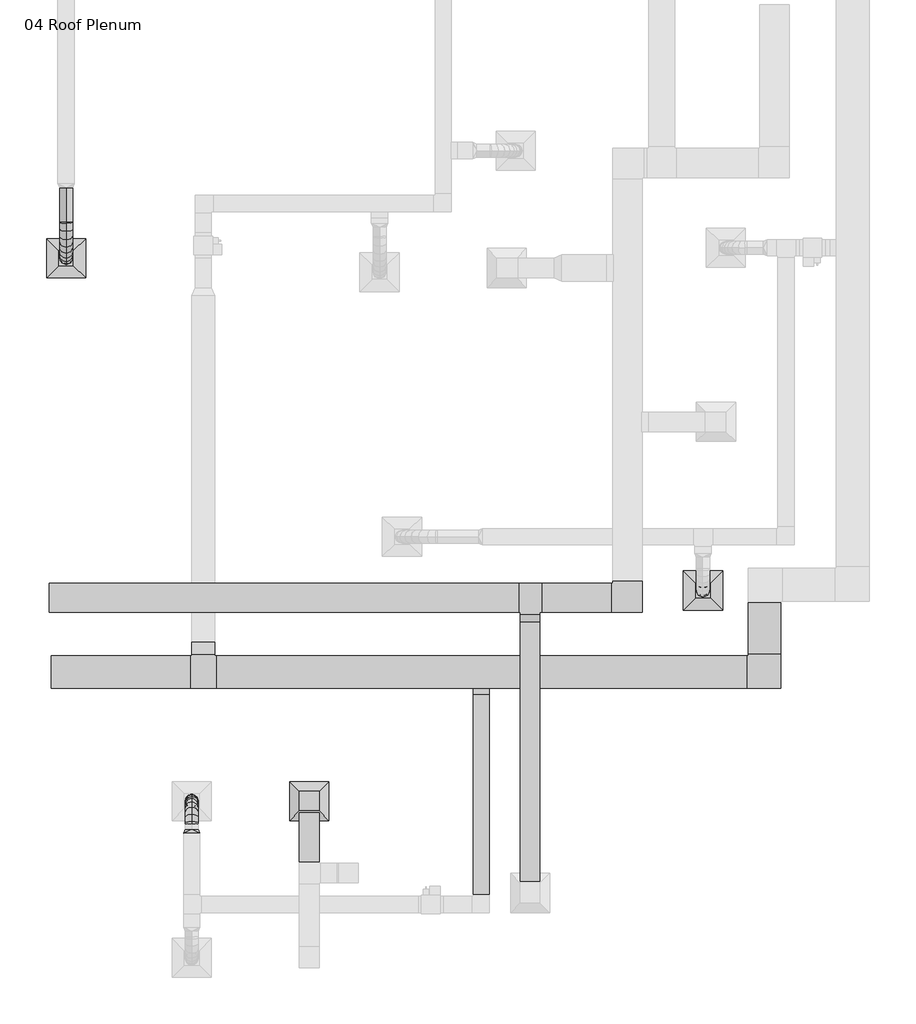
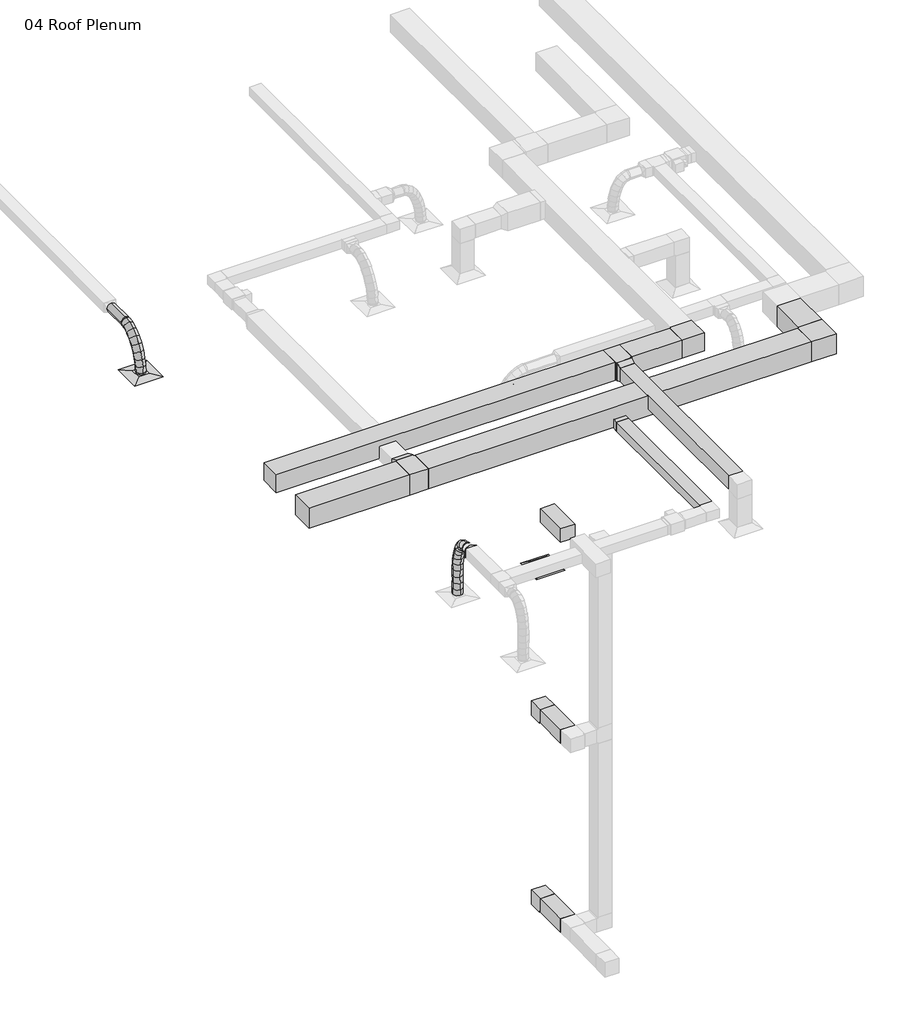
# One storey, part 2 of 9: 13 duct segments, 10 duct fittings, 3 air terminals.
"""IFC4 building model written with IfcOpenShell, lengths in millimetres."""

from ifc_helpers import new_model, si_unit, point, frame, frame_2d, origin, place, context, project, spatial, polyline, circle_curve, ellipse_curve, trimmed, segment, composite_curve, outline, extrude, transform, mapped, element, save
from ifc_brep_helpers import plane_surface, cylinder_surface, advanced_brep
from components import exhaust_diffuser_hosted_workplane_based_exhaust_diffuser_7695a80a, supply_diffuser_rectangular_face_round_neck_d30_6390248a, rectangular_elbow_mitered_standard_946096ac, rectangular_elbow_mitered_standard_3a774ab6, rectangular_elbow_mitered_standard_4ff1c4e8, rectangular_takeoff_standard_ae128e4c, rectangular_tee_standard_dc794bcd, rectangular_tee_standard_d8c1cff5, rectangular_transition_angle_45_degree_1844116c, rectangular_transition_angle_45_degree_58881a6c, rectangular_to_round_transition_angle_45_degree_e9430680

model = new_model("IFC4")

# Units and contexts
model_context = context("Model", 3, world=origin())
ifc_project = project(units=[si_unit("LENGTHUNIT", "METRE", prefix="MILLI")], contexts=[model_context])

# Site, building, storey
site = spatial("IfcSite", under=ifc_project)
building = spatial("IfcBuilding", under=site)
storey = spatial("IfcBuildingStorey", under=building, Name="04 Roof Plenum", Elevation=12192.0)

# Air terminals
placement = place(None, origin())
exhaust_diffuser_hosted_workplane_based_exhaust_diffuser_shape = exhaust_diffuser_hosted_workplane_based_exhaust_diffuser_7695a80a(model_context)
element("IfcAirTerminal", 1, ObjectType="Exhaust Diffuser - Hosted : Workplane-based Exhaust Diffuser", at=placement, inside=storey, context=model_context, shape_type="MappedRepresentation", body=[
    mapped(exhaust_diffuser_hosted_workplane_based_exhaust_diffuser_shape, transform((-12923.6292617, -3364.9078325, 11582.4), x_axis=(1.0, 0.0, 0.0), y_axis=(0.0, -1.0, 0.0), z_axis=(0.0, 0.0, -1.0))),
])
supply_diffuser_rectangular_face_round_neck_d30_shape = supply_diffuser_rectangular_face_round_neck_d30_6390248a(model_context)
element("IfcAirTerminal", 2, ObjectType="Supply Diffuser - Rectangular Face Round Neck : D30_SupplyDiffuser_24x24 8 Neck", at=placement, inside=storey, context=model_context, shape_type="MappedRepresentation", body=[
    mapped(supply_diffuser_rectangular_face_round_neck_d30_shape, transform((-6797.3043703, -88.3078325, 12192.0), x_axis=(1.0, 0.0, 0.0), y_axis=(0.0, 1.0, 0.0), z_axis=(0.0, 0.0, 1.0))),
])
element("IfcAirTerminal", 3, ObjectType="Supply Diffuser - Rectangular Face Round Neck : D30_SupplyDiffuser_24x24 8 Neck", at=placement, inside=storey, context=model_context, shape_type="MappedRepresentation", body=[
    mapped(supply_diffuser_rectangular_face_round_neck_d30_shape, transform((-16705.1723705, 5080.5921675, 12192.0), x_axis=(1.0, 0.0, 0.0), y_axis=(0.0, 1.0, 0.0), z_axis=(0.0, 0.0, 1.0))),
])

# Duct fittings
rectangular_elbow_mitered_standard_shape = rectangular_elbow_mitered_standard_946096ac(model_context)
element("IfcDuctFitting", 4, ObjectType="Rectangular Elbow - Mitered : Standard", at=placement, inside=storey, context=model_context, shape_type="MappedRepresentation", body=[
    mapped(rectangular_elbow_mitered_standard_shape, transform((-5838.9142705, -1355.9265825, 13030.2), x_axis=(1.0, 0.0, 0.0), y_axis=(0.0, 1.0, 0.0), z_axis=(0.0, 0.0, 1.0))),
])
rectangular_elbow_mitered_standard_2_shape = rectangular_elbow_mitered_standard_3a774ab6(model_context)
element("IfcDuctFitting", 5, ObjectType="Rectangular Elbow - Mitered : Standard", at=placement, inside=storey, context=model_context, shape_type="MappedRepresentation", body=[
    mapped(rectangular_elbow_mitered_standard_2_shape, transform((-7972.5142705, -201.3156743, 13112.75), x_axis=(1.0, 0.0, 0.0), y_axis=(0.0, 1.0, 0.0), z_axis=(0.0, 0.0, 1.0))),
])
rectangular_elbow_mitered_standard_3_shape = rectangular_elbow_mitered_standard_4ff1c4e8(model_context)
element("IfcDuctFitting", 6, ObjectType="Rectangular Elbow - Mitered : Standard", at=placement, inside=storey, context=model_context, shape_type="MappedRepresentation", body=[
    mapped(rectangular_elbow_mitered_standard_3_shape, transform((-12923.6292617, -3364.9078325, 4038.6), x_axis=(0.0, 1.0, 0.0), y_axis=(0.0, 0.0, -1.0), z_axis=(-1.0, 0.0, 0.0))),
])
element("IfcDuctFitting", 7, ObjectType="Rectangular Elbow - Mitered : Standard", at=placement, inside=storey, context=model_context, shape_type="MappedRepresentation", body=[
    mapped(rectangular_elbow_mitered_standard_3_shape, transform((-12923.6292617, -3364.9078325, 8343.9), x_axis=(0.0, 1.0, 0.0), y_axis=(0.0, 0.0, -1.0), z_axis=(-1.0, 0.0, 0.0))),
])
rectangular_takeoff_standard_shape = rectangular_takeoff_standard_ae128e4c(model_context)
element("IfcDuctFitting", 8, ObjectType="Rectangular Takeoff : Standard", at=placement, inside=storey, context=model_context, shape_type="MappedRepresentation", body=[
    mapped(rectangular_takeoff_standard_shape, transform((-10246.0481813, -1609.9265825, 12877.8), x_axis=(0.0, -1.0, 0.0), y_axis=(-1.0, 0.0, 0.0), z_axis=(0.0, 0.0, -1.0))),
])
rectangular_tee_standard_shape = rectangular_tee_standard_dc794bcd(model_context)
element("IfcDuctFitting", 9, ObjectType="Rectangular Tee : Standard", at=placement, inside=storey, context=model_context, shape_type="MappedRepresentation", body=[
    mapped(rectangular_tee_standard_shape, transform((-14571.5723705, -1355.9265825, 13030.2), x_axis=(-1.0, 0.0, 0.0), y_axis=(0.0, -1.0, 0.0), z_axis=(0.0, 0.0, 1.0))),
])
rectangular_tee_standard_2_shape = rectangular_tee_standard_d8c1cff5(model_context)
element("IfcDuctFitting", 10, ObjectType="Rectangular Tee : Standard", at=placement, inside=storey, context=model_context, shape_type="MappedRepresentation", body=[
    mapped(rectangular_tee_standard_2_shape, transform((-9486.0382699, -201.3156743, 13112.75), x_axis=(1.0, 0.0, 0.0), y_axis=(0.0, 1.0, 0.0), z_axis=(0.0, 0.0, 1.0))),
])
rectangular_transition_angle_45_degree_shape = rectangular_transition_angle_45_degree_1844116c(model_context)
element("IfcDuctFitting", 11, ObjectType="Rectangular Transition - Angle : 45 Degree", at=placement, inside=storey, context=model_context, shape_type="MappedRepresentation", body=[
    mapped(rectangular_transition_angle_45_degree_shape, transform((-14571.5723705, -1076.5265825, 13030.2), x_axis=(0.0, 1.0, 0.0), y_axis=(-1.0, 0.0, 0.0), z_axis=(0.0, 0.0, 1.0))),
])
rectangular_transition_angle_45_degree_2_shape = rectangular_transition_angle_45_degree_58881a6c(model_context)
element("IfcDuctFitting", 12, ObjectType="Rectangular Transition - Angle : 45 Degree", at=placement, inside=storey, context=model_context, shape_type="MappedRepresentation", body=[
    mapped(rectangular_transition_angle_45_degree_2_shape, transform((-9486.0382699, -455.3156743, 13112.75), x_axis=(0.0, -1.0, 0.0), y_axis=(1.0, 0.0, 0.0), z_axis=(0.0, 0.0, 1.0))),
])
rectangular_to_round_transition_angle_45_degree_shape = rectangular_to_round_transition_angle_45_degree_e9430680(model_context)
element("IfcDuctFitting", 13, ObjectType="Rectangular to Round Transition - Angle : 45 Degree", at=placement, inside=storey, context=model_context, shape_type="MappedRepresentation", body=[
    mapped(rectangular_to_round_transition_angle_45_degree_shape, transform((-14752.2538818, -3867.6465968, 12877.8), x_axis=(0.0, 1.0, 0.0), y_axis=(-1.0, 0.0, 0.0), z_axis=(0.0, 0.0, 1.0))),
])

# Duct segments
element("IfcDuctSegment", 14, ObjectType="Flex - Round", at=placement, inside=storey, context=model_context, shape_type="AdvancedBrep", body=[
    advanced_brep(
    [(-14853.8538818, -3715.2465968, 12877.8), (-14752.2538818, -3715.2465968, 12776.2), (-14650.6538818, -3715.2465968, 12877.8), (-14752.2538818, -3715.2465968, 12979.4), (-14853.8538818, -3696.9652792, 12877.8), (-14752.2538818, -3708.0796365, 12776.2), (-14650.6538818, -3696.9605547, 12877.8), (-14752.2538818, -3685.8461974, 12979.4), (-14854.0292597, -3364.9273538, 11636.3785359), (-14752.4488245, -3263.3153608, 11635.1383508), (-14650.8292636, -3364.8883112, 11636.3714641), (-14752.4096988, -3466.5003043, 11637.6116492), (-14853.8579662, -3610.1823133, 12858.5789033), (-14752.2566, -3650.3242331, 12763.4080635), (-14650.6579668, -3610.1655535, 12858.5762377), (-14752.259333, -3570.0236336, 12953.7470775), (-14853.8691655, -3527.7290367, 12804.5006621), (-14752.2636562, -3598.3741074, 12729.3357798), (-14650.6691677, -3527.7002017, 12804.4900768), (-14752.274677, -3457.055131, 12879.6549592), (-14853.8858988, -3465.2301987, 12720.9407746), (-14752.2755219, -3554.0556397, 12670.0827393), (-14650.6859028, -3465.1947015, 12720.9212819), (-14752.2962797, -3376.3692605, 12771.7793172), (-14853.9065854, -3420.0302397, 12613.2749471), (-14752.2925502, -3516.8490724, 12581.457087), (-14650.7065906, -3419.9922044, 12613.2494088), (-14752.3206257, -3323.1733717, 12645.067269), (-14853.9296441, -3389.4741211, 12486.88076), (-14752.3132146, -3489.4656771, 12468.1867453), (-14650.7296498, -3389.4353408, 12486.8521401), (-14752.3460792, -3289.4437848, 12505.5461547), (-14853.9534936, -3370.9062148, 12347.1361757), (-14752.3355612, -3472.0678765, 12337.2485355), (-14650.7534994, -3370.8673308, 12347.1067754), (-14752.3714318, -3269.7056691, 12356.9944156), (-14853.9765526, -3361.670551, 12199.4190351), (-14752.3577091, -3463.1971288, 12195.3679398), (-14650.7765583, -3361.6317359, 12199.3907367), (-14752.3954018, -3260.1051581, 12203.441832), (-14853.99724, -3359.1110214, 12049.106997), (-14752.3778906, -3460.7001997, 12048.7322024), (-14650.7972453, -3359.0722562, 12049.0816274), (-14752.4165947, -3257.4830779, 12049.456422), (-14854.0139745, -3360.5714626, 11901.5775235), (-14752.3944099, -3462.1418642, 11903.0994956), (-14650.8139792, -3360.532647, 11901.5572482), (-14752.4335438, -3258.9622454, 11900.0352761), (-14854.0251749, -3363.3956781, 11762.2077856), (-14752.4056007, -3464.9636573, 11763.8492986), (-14650.8251789, -3363.3566967, 11762.1956904), (-14752.4447532, -3261.7887175, 11760.5541775)],
    [
        (0, 1, circle_curve(frame((-14752.2538818, -3715.2465968, 12877.8), z_axis=(0.0, -1.0, 0.0), x_axis=(-1.0, 0.0, 0.0)), 101.6)),
        (1, 2, circle_curve(frame((-14752.2538818, -3715.2465968, 12877.8), z_axis=(0.0, -1.0, 0.0), x_axis=(-1.0, 0.0, 0.0)), 101.6)),
        (2, 3, circle_curve(frame((-14752.2538818, -3715.2465968, 12877.8), z_axis=(0.0, -1.0, 0.0), x_axis=(-1.0, 0.0, 0.0)), 101.6)),
        (3, 0, circle_curve(frame((-14752.2538818, -3715.2465968, 12877.8), z_axis=(0.0, -1.0, 0.0), x_axis=(-1.0, 0.0, 0.0)), 101.6)),
        (0, 4),
        (4, 5, ellipse_curve(frame((-14752.2538818, -3696.9629169, 12877.8), z_axis=(2.3112868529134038e-05, -0.9940672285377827, 0.10876738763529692), x_axis=(-0.00021123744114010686, -0.10876739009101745, -0.9940672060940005)), 102.206367, 101.6)),
        (5, 1),
        (5, 6, ellipse_curve(frame((-14752.2538818, -3696.9629169, 12877.8), z_axis=(2.3112868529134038e-05, -0.9940672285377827, 0.10876738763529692), x_axis=(-0.00021123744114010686, -0.10876739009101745, -0.9940672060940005)), 102.206367, 101.6)),
        (6, 2),
        (6, 7, ellipse_curve(frame((-14752.2538818, -3696.9629169, 12877.8), z_axis=(2.3112868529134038e-05, -0.9940672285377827, 0.10876738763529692), x_axis=(-0.00021123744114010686, -0.10876739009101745, -0.9940672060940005)), 102.206367, 101.6)),
        (7, 3),
        (7, 4, ellipse_curve(frame((-14752.2538818, -3696.9629169, 12877.8), z_axis=(2.3112868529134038e-05, -0.9940672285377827, 0.10876738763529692), x_axis=(-0.00021123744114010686, -0.10876739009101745, -0.9940672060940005)), 102.206367, 101.6)),
        (8, 9, circle_curve(frame((-14752.4292617, -3364.9078325, 11636.375), z_axis=(-3.2460732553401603e-05, -0.012171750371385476, -0.999925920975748), x_axis=(-0.9999999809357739, -0.00019213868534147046, 3.480197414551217e-05)), 101.6)),
        (9, 10, circle_curve(frame((-14752.4292617, -3364.9078325, 11636.375), z_axis=(-3.2460732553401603e-05, -0.012171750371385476, -0.999925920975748), x_axis=(-0.9999999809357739, -0.00019213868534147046, 3.480197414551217e-05)), 101.6)),
        (10, 11, circle_curve(frame((-14752.4292617, -3364.9078325, 11636.375), z_axis=(-3.2460732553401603e-05, -0.012171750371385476, -0.999925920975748), x_axis=(-0.9999999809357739, -0.00019213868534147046, 3.480197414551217e-05)), 101.6)),
        (11, 8, circle_curve(frame((-14752.4292617, -3364.9078325, 11636.375), z_axis=(-3.2460732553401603e-05, -0.012171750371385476, -0.999925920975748), x_axis=(-0.9999999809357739, -0.00019213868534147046, 3.480197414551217e-05)), 101.6)),
        (4, 12),
        (12, 13, ellipse_curve(frame((-14752.2579665, -3610.1739334, 12858.5775705), z_axis=(8.10925509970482e-05, -0.9213618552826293, 0.3887059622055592), x_axis=(-0.00018756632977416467, -0.38870597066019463, -0.9213618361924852)), 103.2922149, 101.6)),
        (13, 5),
        (13, 14, ellipse_curve(frame((-14752.2579665, -3610.1739334, 12858.5775705), z_axis=(8.10925509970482e-05, -0.9213618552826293, 0.3887059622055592), x_axis=(-0.00018756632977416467, -0.38870597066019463, -0.9213618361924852)), 103.2922149, 101.6)),
        (14, 6),
        (14, 15, ellipse_curve(frame((-14752.2579665, -3610.1739334, 12858.5775705), z_axis=(8.10925509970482e-05, -0.9213618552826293, 0.3887059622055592), x_axis=(-0.00018756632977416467, -0.38870597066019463, -0.9213618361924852)), 103.2922149, 101.6)),
        (15, 7),
        (15, 12, ellipse_curve(frame((-14752.2579665, -3610.1739334, 12858.5775705), z_axis=(8.10925509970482e-05, -0.9213618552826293, 0.3887059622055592), x_axis=(-0.00018756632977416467, -0.38870597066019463, -0.9213618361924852)), 103.2922149, 101.6)),
        (12, 16),
        (16, 17, ellipse_curve(frame((-14752.2691666, -3527.7146192, 12804.4953695), z_axis=(0.00013907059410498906, -0.7285818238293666, 0.6849587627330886), x_axis=(-0.00013507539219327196, -0.6849587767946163, -0.728581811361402)), 103.1587477, 101.6)),
        (17, 13),
        (17, 18, ellipse_curve(frame((-14752.2691666, -3527.7146192, 12804.4953695), z_axis=(0.00013907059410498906, -0.7285818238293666, 0.6849587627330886), x_axis=(-0.00013507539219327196, -0.6849587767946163, -0.728581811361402)), 103.1587477, 101.6)),
        (18, 14),
        (18, 19, ellipse_curve(frame((-14752.2691666, -3527.7146192, 12804.4953695), z_axis=(0.00013907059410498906, -0.7285818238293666, 0.6849587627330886), x_axis=(-0.00013507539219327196, -0.6849587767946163, -0.728581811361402)), 103.1587477, 101.6)),
        (19, 15),
        (19, 16, ellipse_curve(frame((-14752.2691666, -3527.7146192, 12804.4953695), z_axis=(0.00013907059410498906, -0.7285818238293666, 0.6849587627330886), x_axis=(-0.00013507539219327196, -0.6849587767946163, -0.728581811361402)), 103.1587477, 101.6)),
        (16, 20),
        (20, 21, ellipse_curve(frame((-14752.2859008, -3465.2124501, 12720.9310282), z_axis=(0.0001700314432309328, -0.49673348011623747, 0.8679031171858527), x_axis=(-6.88088405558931e-05, -0.8679031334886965, -0.4967334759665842)), 102.3653308, 101.6)),
        (21, 17),
        (21, 22, ellipse_curve(frame((-14752.2859008, -3465.2124501, 12720.9310282), z_axis=(0.0001700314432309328, -0.49673348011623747, 0.8679031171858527), x_axis=(-6.88088405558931e-05, -0.8679031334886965, -0.4967334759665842)), 102.3653308, 101.6)),
        (22, 18),
        (22, 23, ellipse_curve(frame((-14752.2859008, -3465.2124501, 12720.9310282), z_axis=(0.0001700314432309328, -0.49673348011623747, 0.8679031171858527), x_axis=(-6.88088405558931e-05, -0.8679031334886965, -0.4967334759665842)), 102.3653308, 101.6)),
        (23, 19),
        (23, 20, ellipse_curve(frame((-14752.2859008, -3465.2124501, 12720.9310282), z_axis=(0.0001700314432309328, -0.49673348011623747, 0.8679031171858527), x_axis=(-6.88088405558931e-05, -0.8679031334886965, -0.4967334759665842)), 102.3653308, 101.6)),
        (20, 24),
        (24, 25, ellipse_curve(frame((-14752.306588, -3420.011222, 12613.262178), z_axis=(0.00017781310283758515, -0.31203761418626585, 0.9500697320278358), x_axis=(-1.0482813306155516e-06, -0.9500697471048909, -0.31203761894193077)), 101.9270978, 101.6)),
        (25, 21),
        (25, 26, ellipse_curve(frame((-14752.306588, -3420.011222, 12613.262178), z_axis=(0.00017781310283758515, -0.31203761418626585, 0.9500697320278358), x_axis=(-1.0482813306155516e-06, -0.9500697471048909, -0.31203761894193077)), 101.9270978, 101.6)),
        (26, 22),
        (26, 27, ellipse_curve(frame((-14752.306588, -3420.011222, 12613.262178), z_axis=(0.00017781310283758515, -0.31203761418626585, 0.9500697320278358), x_axis=(-1.0482813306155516e-06, -0.9500697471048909, -0.31203761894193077)), 101.9270978, 101.6)),
        (27, 23),
        (27, 24, ellipse_curve(frame((-14752.306588, -3420.011222, 12613.262178), z_axis=(0.00017781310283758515, -0.31203761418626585, 0.9500697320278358), x_axis=(-1.0482813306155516e-06, -0.9500697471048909, -0.31203761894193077)), 101.9270978, 101.6)),
        (24, 28),
        (28, 29, ellipse_curve(frame((-14752.3296469, -3389.454731, 12486.86645), z_axis=(0.00017349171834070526, -0.18360151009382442, 0.9830007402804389), x_axis=(7.756186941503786e-05, -0.9830007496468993, -0.18360152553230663)), 101.7404589, 101.6)),
        (29, 25),
        (29, 30, ellipse_curve(frame((-14752.3296469, -3389.454731, 12486.86645), z_axis=(0.00017349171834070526, -0.18360151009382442, 0.9830007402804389), x_axis=(7.756186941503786e-05, -0.9830007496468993, -0.18360152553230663)), 101.7404589, 101.6)),
        (30, 26),
        (30, 31, ellipse_curve(frame((-14752.3296469, -3389.454731, 12486.86645), z_axis=(0.00017349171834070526, -0.18360151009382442, 0.9830007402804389), x_axis=(7.756186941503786e-05, -0.9830007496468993, -0.18360152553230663)), 101.7404589, 101.6)),
        (31, 27),
        (31, 28, ellipse_curve(frame((-14752.3296469, -3389.454731, 12486.86645), z_axis=(0.00017349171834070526, -0.18360151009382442, 0.9830007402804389), x_axis=(7.756186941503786e-05, -0.9830007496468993, -0.18360152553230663)), 101.7404589, 101.6)),
        (28, 32),
        (32, 33, ellipse_curve(frame((-14752.3534965, -3370.8867728, 12347.1214756), z_axis=(0.0001625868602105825, -0.09711565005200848, 0.9952730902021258), x_axis=(0.00019212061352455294, -0.9952730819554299, -0.09711568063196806)), 101.6616496, 101.6)),
        (33, 29),
        (33, 34, ellipse_curve(frame((-14752.3534965, -3370.8867728, 12347.1214756), z_axis=(0.0001625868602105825, -0.09711565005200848, 0.9952730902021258), x_axis=(0.00019212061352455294, -0.9952730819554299, -0.09711568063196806)), 101.6616496, 101.6)),
        (34, 30),
        (34, 35, ellipse_curve(frame((-14752.3534965, -3370.8867728, 12347.1214756), z_axis=(0.0001625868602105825, -0.09711565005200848, 0.9952730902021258), x_axis=(0.00019212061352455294, -0.9952730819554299, -0.09711568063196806)), 101.6616496, 101.6)),
        (35, 31),
        (35, 32, ellipse_curve(frame((-14752.3534965, -3370.8867728, 12347.1214756), z_axis=(0.0001625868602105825, -0.09711565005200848, 0.9952730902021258), x_axis=(0.00019212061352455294, -0.9952730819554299, -0.09711568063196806)), 101.6616496, 101.6)),
        (32, 36),
        (36, 37, ellipse_curve(frame((-14752.3765555, -3361.6511434, 12199.4048859), z_axis=(0.00014674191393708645, -0.03972345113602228, 0.9992107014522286), x_axis=(0.0004005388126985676, -0.9992106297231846, -0.03972350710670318)), 101.6261995, 101.6)),
        (37, 33),
        (37, 38, ellipse_curve(frame((-14752.3765555, -3361.6511434, 12199.4048859), z_axis=(0.00014674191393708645, -0.03972345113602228, 0.9992107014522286), x_axis=(0.0004005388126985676, -0.9992106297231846, -0.03972350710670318)), 101.6261995, 101.6)),
        (38, 34),
        (38, 39, ellipse_curve(frame((-14752.3765555, -3361.6511434, 12199.4048859), z_axis=(0.00014674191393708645, -0.03972345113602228, 0.9992107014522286), x_axis=(0.0004005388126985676, -0.9992106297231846, -0.03972350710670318)), 101.6261995, 101.6)),
        (39, 35),
        (39, 36, ellipse_curve(frame((-14752.3765555, -3361.6511434, 12199.4048859), z_axis=(0.00014674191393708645, -0.03972345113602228, 0.9992107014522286), x_axis=(0.0004005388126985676, -0.9992106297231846, -0.03972350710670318)), 101.6261995, 101.6)),
        (36, 40),
        (40, 41, ellipse_curve(frame((-14752.3972426, -3359.0916388, 12049.0943122), z_axis=(0.00012552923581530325, -0.0035637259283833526, 0.9999936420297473), x_axis=(0.0008981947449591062, -0.9999932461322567, -0.0035638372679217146)), 101.609208, 101.6)),
        (41, 37),
        (41, 42, ellipse_curve(frame((-14752.3972426, -3359.0916388, 12049.0943122), z_axis=(0.00012552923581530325, -0.0035637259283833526, 0.9999936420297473), x_axis=(0.0008981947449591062, -0.9999932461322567, -0.0035638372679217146)), 101.609208, 101.6)),
        (42, 38),
        (42, 43, ellipse_curve(frame((-14752.3972426, -3359.0916388, 12049.0943122), z_axis=(0.00012552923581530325, -0.0035637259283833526, 0.9999936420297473), x_axis=(0.0008981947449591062, -0.9999932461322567, -0.0035638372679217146)), 101.609208, 101.6)),
        (43, 39),
        (43, 40, ellipse_curve(frame((-14752.3972426, -3359.0916388, 12049.0943122), z_axis=(0.00012552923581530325, -0.0035637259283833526, 0.9999936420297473), x_axis=(0.0008981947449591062, -0.9999932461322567, -0.0035638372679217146)), 101.609208, 101.6)),
        (40, 44),
        (44, 45, ellipse_curve(frame((-14752.4139769, -3360.5520548, 11901.5673858), z_axis=(9.688839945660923e-05, 0.015079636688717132, 0.9998862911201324), x_axis=(0.0031921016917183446, -0.9998812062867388, 0.015079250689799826)), 101.6013638, 101.6)),
        (45, 41),
        (45, 46, ellipse_curve(frame((-14752.4139769, -3360.5520548, 11901.5673858), z_axis=(9.688839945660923e-05, 0.015079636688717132, 0.9998862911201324), x_axis=(0.0031921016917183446, -0.9998812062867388, 0.015079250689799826)), 101.6013638, 101.6)),
        (46, 42),
        (46, 47, ellipse_curve(frame((-14752.4139769, -3360.5520548, 11901.5673858), z_axis=(9.688839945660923e-05, 0.015079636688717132, 0.9998862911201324), x_axis=(0.0031921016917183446, -0.9998812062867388, 0.015079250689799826)), 101.6013638, 101.6)),
        (47, 43),
        (47, 44, ellipse_curve(frame((-14752.4139769, -3360.5520548, 11901.5673858), z_axis=(9.688839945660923e-05, 0.015079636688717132, 0.9998862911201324), x_axis=(0.0031921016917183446, -0.9998812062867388, 0.015079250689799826)), 101.6013638, 101.6)),
        (44, 48),
        (48, 49, ellipse_curve(frame((-14752.4251769, -3363.3761874, 11762.201738), z_axis=(5.6404892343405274e-05, 0.01621602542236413, 0.9998685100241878), x_axis=(0.00591970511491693, 0.9998509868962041, -0.016216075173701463)), 101.6008311, 101.6)),
        (49, 45),
        (49, 50, ellipse_curve(frame((-14752.4251769, -3363.3761874, 11762.201738), z_axis=(5.6404892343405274e-05, 0.01621602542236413, 0.9998685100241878), x_axis=(0.00591970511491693, 0.9998509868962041, -0.016216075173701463)), 101.6008311, 101.6)),
        (50, 46),
        (50, 51, ellipse_curve(frame((-14752.4251769, -3363.3761874, 11762.201738), z_axis=(5.6404892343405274e-05, 0.01621602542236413, 0.9998685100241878), x_axis=(0.00591970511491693, 0.9998509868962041, -0.016216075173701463)), 101.6008311, 101.6)),
        (51, 47),
        (51, 48, ellipse_curve(frame((-14752.4251769, -3363.3761874, 11762.201738), z_axis=(5.6404892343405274e-05, 0.01621602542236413, 0.9998685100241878), x_axis=(0.00591970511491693, 0.9998509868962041, -0.016216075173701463)), 101.6008311, 101.6)),
        (48, 8),
        (11, 49),
        (10, 50),
        (9, 51),
    ],
    [
        plane_surface(frame((-14853.8538818, -3715.2465968, 12877.8), z_axis=(0.0, -1.0, 0.0), x_axis=(0.0, 0.0, 1.0))),
        cylinder_surface(frame((-14752.2538818, -3715.2465968, 12877.8), z_axis=(0.0, -1.0, 0.0), x_axis=(-1.0, 0.0, 0.0)), 101.6),
        plane_surface(frame((-14752.4292617, -3263.3153589, 11635.1383502), z_axis=(-3.246073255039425e-05, -0.01217175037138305, -0.9999259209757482), x_axis=(0.9999999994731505, -3.951039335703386e-07, -3.245832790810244e-05))),
        cylinder_surface(frame((-14752.2538818, -3696.9629169, 12877.8), z_axis=(4.595149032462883e-05, -0.9763393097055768, 0.21624419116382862), x_axis=(-0.9999999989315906, -4.595149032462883e-05, 5.0278526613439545e-06)), 101.6),
        cylinder_surface(frame((-14752.2579665, -3610.1739334, 12858.5775705), z_axis=(0.00011357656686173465, -0.8361954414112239, 0.5484315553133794), x_axis=(-0.9999999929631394, -0.00011376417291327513, 3.3636801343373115e-05)), 101.6),
        cylinder_surface(frame((-14752.2691666, -3527.7146192, 12804.4953695), z_axis=(0.00016036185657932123, -0.5989501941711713, 0.8007862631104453), x_axis=(-0.9999999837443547, -0.00016206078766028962, 7.904170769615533e-05)), 101.6),
        cylinder_surface(frame((-14752.2859008, -3465.2124501, 12720.9310282), z_axis=(0.0001771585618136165, -0.3870891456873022, 0.9220422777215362), x_axis=(-0.9999999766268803, -0.00018285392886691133, 0.00011537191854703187)), 101.6),
        cylinder_surface(frame((-14752.306588, -3420.011222, 12613.262178), z_axis=(0.00017732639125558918, -0.23498334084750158, 0.9719993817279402), x_axis=(-0.9999999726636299, -0.0001898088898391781, 0.00013654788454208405)), 101.6),
        cylinder_surface(frame((-14752.3296469, -3389.454731, 12486.86645), z_axis=(0.00016917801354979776, -0.13171273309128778, 0.9912879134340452), x_axis=(-0.9999999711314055, -0.0001914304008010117, 0.00014522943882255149)), 101.6),
        cylinder_surface(frame((-14752.3534965, -3370.8867728, 12347.1214756), z_axis=(0.00015579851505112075, -0.06240078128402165, 0.9980511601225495), x_axis=(-0.9999999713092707, -0.00019132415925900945, 0.0001441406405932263)), 101.6),
        cylinder_surface(frame((-14752.3765555, -3361.6511434, 12199.4048859), z_axis=(0.00013760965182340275, -0.017025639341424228, 0.9998550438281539), x_axis=(-0.9999999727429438, -0.00019093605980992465, 0.00013437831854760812)), 101.6),
        cylinder_surface(frame((-14752.3972426, -3359.0916388, 12049.0943122), z_axis=(0.00011342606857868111, 0.009898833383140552, 0.999950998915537), x_axis=(-0.9999999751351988, -0.00019086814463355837, 0.00011532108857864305)), 101.6),
        cylinder_surface(frame((-14752.4139769, -3360.5520548, 11901.5673858), z_axis=(8.034812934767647e-05, 0.02026003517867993, 0.9997947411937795), x_axis=(-0.9999999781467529, -0.0001913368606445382, 8.424191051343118e-05)), 101.6),
        cylinder_surface(frame((-14752.4251769, -3363.3761874, 11762.201738), z_axis=(3.2460732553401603e-05, 0.012171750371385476, 0.999925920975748), x_axis=(-0.9999999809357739, -0.00019213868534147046, 3.480197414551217e-05)), 101.6),
    ],
    [
        (0, [[1, 2, 3, 4]]),
        (1, [[-1, 5, 6, 7]]),
        (1, [[-2, -7, 8, 9]]),
        (1, [[-3, -9, 10, 11]]),
        (1, [[-4, -11, 12, -5]]),
        (2, [[13, 14, 15, 16]]),
        (3, [[-6, 17, 18, 19]]),
        (3, [[-8, -19, 20, 21]]),
        (3, [[-10, -21, 22, 23]]),
        (3, [[-12, -23, 24, -17]]),
        (4, [[-18, 25, 26, 27]]),
        (4, [[-20, -27, 28, 29]]),
        (4, [[-22, -29, 30, 31]]),
        (4, [[-24, -31, 32, -25]]),
        (5, [[-26, 33, 34, 35]]),
        (5, [[-28, -35, 36, 37]]),
        (5, [[-30, -37, 38, 39]]),
        (5, [[-32, -39, 40, -33]]),
        (6, [[-34, 41, 42, 43]]),
        (6, [[-36, -43, 44, 45]]),
        (6, [[-38, -45, 46, 47]]),
        (6, [[-40, -47, 48, -41]]),
        (7, [[-42, 49, 50, 51]]),
        (7, [[-44, -51, 52, 53]]),
        (7, [[-46, -53, 54, 55]]),
        (7, [[-48, -55, 56, -49]]),
        (8, [[-50, 57, 58, 59]]),
        (8, [[-52, -59, 60, 61]]),
        (8, [[-54, -61, 62, 63]]),
        (8, [[-56, -63, 64, -57]]),
        (9, [[-58, 65, 66, 67]]),
        (9, [[-60, -67, 68, 69]]),
        (9, [[-62, -69, 70, 71]]),
        (9, [[-64, -71, 72, -65]]),
        (10, [[-66, 73, 74, 75]]),
        (10, [[-68, -75, 76, 77]]),
        (10, [[-70, -77, 78, 79]]),
        (10, [[-72, -79, 80, -73]]),
        (11, [[-74, 81, 82, 83]]),
        (11, [[-76, -83, 84, 85]]),
        (11, [[-78, -85, 86, 87]]),
        (11, [[-80, -87, 88, -81]]),
        (12, [[-82, 89, 90, 91]]),
        (12, [[-84, -91, 92, 93]]),
        (12, [[-86, -93, 94, 95]]),
        (12, [[-88, -95, 96, -89]]),
        (13, [[-90, 97, -16, 98]]),
        (13, [[-92, -98, -15, 99]]),
        (13, [[-94, -99, -14, 100]]),
        (13, [[-96, -100, -13, -97]]),
    ],
),
])
element("IfcDuctSegment", 15, ObjectType="Flex - Round", at=placement, inside=storey, context=model_context, shape_type="AdvancedBrep", body=[
    advanced_brep(
    [(-16603.5723705, 5652.0921675, 13030.2), (-16705.1723705, 5652.0921675, 12928.6), (-16806.7723705, 5652.0921675, 13030.2), (-16705.1723705, 5652.0921675, 13131.8), (-16603.5723705, 5634.6766547, 13030.2), (-16705.1723705, 5644.9483057, 12928.6), (-16806.7723705, 5634.6766547, 13030.2), (-16705.1723705, 5624.4050036, 13131.8), (-16603.5723705, 5080.5921675, 12245.975), (-16705.1723705, 4978.9921675, 12245.975), (-16806.7723705, 5080.5921675, 12245.975), (-16705.1723705, 5182.1921675, 12245.975), (-16603.5723705, 5534.6679294, 13009.7696317), (-16705.1723705, 5569.0356452, 12913.0921169), (-16806.7723705, 5534.6679294, 13009.7696317), (-16705.1723705, 5500.3002137, 13106.4471464), (-16603.5723705, 5426.336782, 12953.1510139), (-16705.1723705, 5484.3233218, 12868.8177345), (-16806.7723705, 5426.336782, 12953.1510139), (-16705.1723705, 5368.3502421, 13037.4842933), (-16603.5723705, 5329.1217138, 12867.3528777), (-16705.1723705, 5403.4592339, 12797.4503203), (-16806.7723705, 5329.1217138, 12867.3528777), (-16705.1723705, 5254.7841938, 12937.255435), (-16603.5723705, 5245.0457137, 12759.3839538), (-16705.1723705, 5329.9415455, 12703.0401951), (-16806.7723705, 5245.0457137, 12759.3839538), (-16705.1723705, 5160.1498819, 12815.7277125), (-16603.5723705, 5176.1317703, 12636.2529732), (-16705.1723705, 5268.1425216, 12592.6216929), (-16806.7723705, 5176.1317703, 12636.2529732), (-16705.1723705, 5084.121019, 12679.8842535), (-16603.5723705, 5124.4028723, 12504.9686667), (-16705.1723705, 5221.4389153, 12474.0912234), (-16806.7723705, 5124.4028723, 12504.9686667), (-16705.1723705, 5027.3668293, 12535.8461101), (-16603.5723705, 5091.8820085, 12372.5397654), (-16705.1723705, 5192.3107826, 12355.4779344), (-16806.7723705, 5091.8820085, 12372.5397654), (-16705.1723705, 4991.4532344, 12389.6015963), (-16603.5723705, 5080.5921675, 12255.0020887), (-16705.1723705, 5182.1921675, 12250.1338018), (-16806.7723705, 5080.5921675, 12255.0020887), (-16705.1723705, 4978.9921675, 12259.8703756)],
    [
        (0, 1, circle_curve(frame((-16705.1723705, 5652.0921675, 13030.2), z_axis=(0.0, 1.0, 0.0), x_axis=(1.0, 0.0, 0.0)), 101.6)),
        (1, 2, circle_curve(frame((-16705.1723705, 5652.0921675, 13030.2), z_axis=(0.0, 1.0, 0.0), x_axis=(1.0, 0.0, 0.0)), 101.6)),
        (2, 3, circle_curve(frame((-16705.1723705, 5652.0921675, 13030.2), z_axis=(0.0, 1.0, 0.0), x_axis=(1.0, 0.0, 0.0)), 101.6)),
        (3, 0, circle_curve(frame((-16705.1723705, 5652.0921675, 13030.2), z_axis=(0.0, 1.0, 0.0), x_axis=(1.0, 0.0, 0.0)), 101.6)),
        (0, 4),
        (4, 5, ellipse_curve(frame((-16705.1723705, 5634.6766547, 13030.2), z_axis=(0.0, 0.9949283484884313, 0.10058618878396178), x_axis=(0.0, 0.10058618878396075, -0.9949283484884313)), 102.1179064, 101.6)),
        (5, 1),
        (5, 6, ellipse_curve(frame((-16705.1723705, 5634.6766547, 13030.2), z_axis=(0.0, 0.9949283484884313, 0.10058618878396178), x_axis=(0.0, 0.10058618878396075, -0.9949283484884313)), 102.1179064, 101.6)),
        (6, 2),
        (6, 7, ellipse_curve(frame((-16705.1723705, 5634.6766547, 13030.2), z_axis=(0.0, 0.9949283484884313, 0.10058618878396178), x_axis=(0.0, 0.10058618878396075, -0.9949283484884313)), 102.1179064, 101.6)),
        (7, 3),
        (7, 4, ellipse_curve(frame((-16705.1723705, 5634.6766547, 13030.2), z_axis=(0.0, 0.9949283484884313, 0.10058618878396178), x_axis=(0.0, 0.10058618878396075, -0.9949283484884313)), 102.1179064, 101.6)),
        (8, 9, circle_curve(frame((-16705.1723705, 5080.5921675, 12245.975), z_axis=(0.0, 0.0, -1.0), x_axis=(1.0, 0.0, 0.0)), 101.6)),
        (9, 10, circle_curve(frame((-16705.1723705, 5080.5921675, 12245.975), z_axis=(0.0, 0.0, -1.0), x_axis=(1.0, 0.0, 0.0)), 101.6)),
        (10, 11, circle_curve(frame((-16705.1723705, 5080.5921675, 12245.975), z_axis=(0.0, 0.0, -1.0), x_axis=(1.0, 0.0, 0.0)), 101.6)),
        (11, 8, circle_curve(frame((-16705.1723705, 5080.5921675, 12245.975), z_axis=(0.0, 0.0, -1.0), x_axis=(1.0, 0.0, 0.0)), 101.6)),
        (4, 12),
        (12, 13, ellipse_curve(frame((-16705.1723705, 5534.6679294, 13009.7696317), z_axis=(0.0, 0.9422347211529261, 0.33495332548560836), x_axis=(0.0, 0.3349533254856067, -0.9422347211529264)), 102.6044918, 101.6)),
        (13, 5),
        (13, 14, ellipse_curve(frame((-16705.1723705, 5534.6679294, 13009.7696317), z_axis=(0.0, 0.9422347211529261, 0.33495332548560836), x_axis=(0.0, 0.3349533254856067, -0.9422347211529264)), 102.6044918, 101.6)),
        (14, 6),
        (14, 15, ellipse_curve(frame((-16705.1723705, 5534.6679294, 13009.7696317), z_axis=(0.0, 0.9422347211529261, 0.33495332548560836), x_axis=(0.0, 0.3349533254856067, -0.9422347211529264)), 102.6044918, 101.6)),
        (15, 7),
        (15, 12, ellipse_curve(frame((-16705.1723705, 5534.6679294, 13009.7696317), z_axis=(0.0, 0.9422347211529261, 0.33495332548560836), x_axis=(0.0, 0.3349533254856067, -0.9422347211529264)), 102.6044918, 101.6)),
        (12, 16),
        (16, 17, ellipse_curve(frame((-16705.1723705, 5426.336782, 12953.1510139), z_axis=(0.0, 0.8240081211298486, 0.5665779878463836), x_axis=(0.0, 0.5665779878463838, -0.8240081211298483)), 102.3452042, 101.6)),
        (17, 13),
        (17, 18, ellipse_curve(frame((-16705.1723705, 5426.336782, 12953.1510139), z_axis=(0.0, 0.8240081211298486, 0.5665779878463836), x_axis=(0.0, 0.5665779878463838, -0.8240081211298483)), 102.3452042, 101.6)),
        (18, 14),
        (18, 19, ellipse_curve(frame((-16705.1723705, 5426.336782, 12953.1510139), z_axis=(0.0, 0.8240081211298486, 0.5665779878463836), x_axis=(0.0, 0.5665779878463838, -0.8240081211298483)), 102.3452042, 101.6)),
        (19, 15),
        (19, 16, ellipse_curve(frame((-16705.1723705, 5426.336782, 12953.1510139), z_axis=(0.0, 0.8240081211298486, 0.5665779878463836), x_axis=(0.0, 0.5665779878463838, -0.8240081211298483)), 102.3452042, 101.6)),
        (16, 20),
        (20, 21, ellipse_curve(frame((-16705.1723705, 5329.1217138, 12867.3528777), z_axis=(0.0, 0.6850415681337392, 0.7285039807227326), x_axis=(0.0, 0.7285039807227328, -0.6850415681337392)), 102.0413368, 101.6)),
        (21, 17),
        (21, 22, ellipse_curve(frame((-16705.1723705, 5329.1217138, 12867.3528777), z_axis=(0.0, 0.6850415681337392, 0.7285039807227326), x_axis=(0.0, 0.7285039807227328, -0.6850415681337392)), 102.0413368, 101.6)),
        (22, 18),
        (22, 23, ellipse_curve(frame((-16705.1723705, 5329.1217138, 12867.3528777), z_axis=(0.0, 0.6850415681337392, 0.7285039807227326), x_axis=(0.0, 0.7285039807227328, -0.6850415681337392)), 102.0413368, 101.6)),
        (23, 19),
        (23, 20, ellipse_curve(frame((-16705.1723705, 5329.1217138, 12867.3528777), z_axis=(0.0, 0.6850415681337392, 0.7285039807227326), x_axis=(0.0, 0.7285039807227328, -0.6850415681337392)), 102.0413368, 101.6)),
        (20, 24),
        (24, 25, ellipse_curve(frame((-16705.1723705, 5245.0457137, 12759.3839538), z_axis=(0.0, 0.5529768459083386, 0.8331966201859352), x_axis=(0.0, 0.8331966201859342, -0.55297684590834)), 101.8917141, 101.6)),
        (25, 21),
        (25, 26, ellipse_curve(frame((-16705.1723705, 5245.0457137, 12759.3839538), z_axis=(0.0, 0.5529768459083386, 0.8331966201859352), x_axis=(0.0, 0.8331966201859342, -0.55297684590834)), 101.8917141, 101.6)),
        (26, 22),
        (26, 27, ellipse_curve(frame((-16705.1723705, 5245.0457137, 12759.3839538), z_axis=(0.0, 0.5529768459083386, 0.8331966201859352), x_axis=(0.0, 0.8331966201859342, -0.55297684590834)), 101.8917141, 101.6)),
        (27, 23),
        (27, 24, ellipse_curve(frame((-16705.1723705, 5245.0457137, 12759.3839538), z_axis=(0.0, 0.5529768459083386, 0.8331966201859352), x_axis=(0.0, 0.8331966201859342, -0.55297684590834)), 101.8917141, 101.6)),
        (24, 28),
        (28, 29, ellipse_curve(frame((-16705.1723705, 5176.1317703, 12636.2529732), z_axis=(0.0, 0.42846519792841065, 0.9035582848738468), x_axis=(0.0, 0.9035582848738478, -0.4284651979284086)), 101.8315618, 101.6)),
        (29, 25),
        (29, 30, ellipse_curve(frame((-16705.1723705, 5176.1317703, 12636.2529732), z_axis=(0.0, 0.42846519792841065, 0.9035582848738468), x_axis=(0.0, 0.9035582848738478, -0.4284651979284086)), 101.8315618, 101.6)),
        (30, 26),
        (30, 31, ellipse_curve(frame((-16705.1723705, 5176.1317703, 12636.2529732), z_axis=(0.0, 0.42846519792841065, 0.9035582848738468), x_axis=(0.0, 0.9035582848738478, -0.4284651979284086)), 101.8315618, 101.6)),
        (31, 27),
        (31, 28, ellipse_curve(frame((-16705.1723705, 5176.1317703, 12636.2529732), z_axis=(0.0, 0.42846519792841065, 0.9035582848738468), x_axis=(0.0, 0.9035582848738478, -0.4284651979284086)), 101.8315618, 101.6)),
        (28, 32),
        (32, 33, ellipse_curve(frame((-16705.1723705, 5124.4028723, 12504.9686667), z_axis=(0.0, 0.30322451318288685, 0.9529191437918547), x_axis=(0.0, 0.9529191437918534, -0.3032245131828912)), 101.8303007, 101.6)),
        (33, 29),
        (33, 34, ellipse_curve(frame((-16705.1723705, 5124.4028723, 12504.9686667), z_axis=(0.0, 0.30322451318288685, 0.9529191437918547), x_axis=(0.0, 0.9529191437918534, -0.3032245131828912)), 101.8303007, 101.6)),
        (34, 30),
        (34, 35, ellipse_curve(frame((-16705.1723705, 5124.4028723, 12504.9686667), z_axis=(0.0, 0.30322451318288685, 0.9529191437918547), x_axis=(0.0, 0.9529191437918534, -0.3032245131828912)), 101.8303007, 101.6)),
        (35, 31),
        (35, 32, ellipse_curve(frame((-16705.1723705, 5124.4028723, 12504.9686667), z_axis=(0.0, 0.30322451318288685, 0.9529191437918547), x_axis=(0.0, 0.9529191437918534, -0.3032245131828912)), 101.8303007, 101.6)),
        (32, 36),
        (36, 37, ellipse_curve(frame((-16705.1723705, 5091.8820085, 12372.5397654), z_axis=(0.0, 0.16748996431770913, 0.985873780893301), x_axis=(0.0, 0.985873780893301, -0.16748996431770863)), 101.8677807, 101.6)),
        (37, 33),
        (37, 38, ellipse_curve(frame((-16705.1723705, 5091.8820085, 12372.5397654), z_axis=(0.0, 0.16748996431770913, 0.985873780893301), x_axis=(0.0, 0.985873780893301, -0.16748996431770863)), 101.8677807, 101.6)),
        (38, 34),
        (38, 39, ellipse_curve(frame((-16705.1723705, 5091.8820085, 12372.5397654), z_axis=(0.0, 0.16748996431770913, 0.985873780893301), x_axis=(0.0, 0.985873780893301, -0.16748996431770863)), 101.8677807, 101.6)),
        (39, 35),
        (39, 36, ellipse_curve(frame((-16705.1723705, 5091.8820085, 12372.5397654), z_axis=(0.0, 0.16748996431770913, 0.985873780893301), x_axis=(0.0, 0.985873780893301, -0.16748996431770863)), 101.8677807, 101.6)),
        (36, 40),
        (40, 41, ellipse_curve(frame((-16705.1723705, 5080.5921675, 12255.0020887), z_axis=(0.0, 0.04786129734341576, 0.9988539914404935), x_axis=(0.0, 0.9988539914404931, -0.04786129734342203)), 101.7165681, 101.6)),
        (41, 37),
        (41, 42, ellipse_curve(frame((-16705.1723705, 5080.5921675, 12255.0020887), z_axis=(0.0, 0.04786129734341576, 0.9988539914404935), x_axis=(0.0, 0.9988539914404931, -0.04786129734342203)), 101.7165681, 101.6)),
        (42, 38),
        (42, 43, ellipse_curve(frame((-16705.1723705, 5080.5921675, 12255.0020887), z_axis=(0.0, 0.04786129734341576, 0.9988539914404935), x_axis=(0.0, 0.9988539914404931, -0.04786129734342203)), 101.7165681, 101.6)),
        (43, 39),
        (43, 40, ellipse_curve(frame((-16705.1723705, 5080.5921675, 12255.0020887), z_axis=(0.0, 0.04786129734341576, 0.9988539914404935), x_axis=(0.0, 0.9988539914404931, -0.04786129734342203)), 101.7165681, 101.6)),
        (40, 8),
        (11, 41),
        (10, 42),
        (9, 43),
    ],
    [
        plane_surface(frame((-16806.7723705, 5652.0921675, 13030.2), z_axis=(0.0, 1.0, 0.0), x_axis=(0.0, 0.0, -1.0))),
        cylinder_surface(frame((-16705.1723705, 5652.0921675, 13030.2), z_axis=(0.0, 1.0, 0.0), x_axis=(1.0, 0.0, 0.0)), 101.6),
        plane_surface(frame((-16705.1723705, 4978.9921675, 12245.975), z_axis=(0.0, 0.0, -1.0), x_axis=(-1.0, 0.0, 0.0))),
        cylinder_surface(frame((-16705.1723705, 5634.6766547, 13030.2), z_axis=(0.0, 0.9797648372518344, 0.2001521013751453), x_axis=(1.0, 0.0, 0.0)), 101.6),
        cylinder_surface(frame((-16705.1723705, 5534.6679294, 13009.7696317), z_axis=(0.0, 0.8862557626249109, 0.46319620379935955), x_axis=(1.0, 0.0, 0.0)), 101.6),
        cylinder_surface(frame((-16705.1723705, 5426.336782, 12953.1510139), z_axis=(0.0, 0.7497608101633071, 0.6617089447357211), x_axis=(1.0, 0.0, 0.0)), 101.6),
        cylinder_surface(frame((-16705.1723705, 5329.1217138, 12867.3528777), z_axis=(0.0, 0.6143966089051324, 0.7889973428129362), x_axis=(1.0, 0.0, 0.0)), 101.6),
        cylinder_surface(frame((-16705.1723705, 5245.0457137, 12759.3839538), z_axis=(0.0, 0.4883907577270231, 0.8726250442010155), x_axis=(1.0, 0.0, 0.0)), 101.6),
        cylinder_surface(frame((-16705.1723705, 5176.1317703, 12636.2529732), z_axis=(0.0, 0.36659100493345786, 0.9303821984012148), x_axis=(1.0, 0.0, 0.0)), 101.6),
        cylinder_surface(frame((-16705.1723705, 5124.4028723, 12504.9686667), z_axis=(0.0, 0.23848646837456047, 0.9711458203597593), x_axis=(1.0, 0.0, 0.0)), 101.6),
        cylinder_surface(frame((-16705.1723705, 5091.8820085, 12372.5397654), z_axis=(0.0, 0.0956128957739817, 0.9954185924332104), x_axis=(1.0, 0.0, 0.0)), 101.6),
        cylinder_surface(frame((-16705.1723705, 5080.5921675, 12255.0020887), z_axis=(0.0, 0.0, 1.0), x_axis=(1.0, 0.0, 0.0)), 101.6),
    ],
    [
        (0, [[1, 2, 3, 4]]),
        (1, [[-1, 5, 6, 7]]),
        (1, [[-2, -7, 8, 9]]),
        (1, [[-3, -9, 10, 11]]),
        (1, [[-4, -11, 12, -5]]),
        (2, [[13, 14, 15, 16]]),
        (3, [[-6, 17, 18, 19]]),
        (3, [[-8, -19, 20, 21]]),
        (3, [[-10, -21, 22, 23]]),
        (3, [[-12, -23, 24, -17]]),
        (4, [[-18, 25, 26, 27]]),
        (4, [[-20, -27, 28, 29]]),
        (4, [[-22, -29, 30, 31]]),
        (4, [[-24, -31, 32, -25]]),
        (5, [[-26, 33, 34, 35]]),
        (5, [[-28, -35, 36, 37]]),
        (5, [[-30, -37, 38, 39]]),
        (5, [[-32, -39, 40, -33]]),
        (6, [[-34, 41, 42, 43]]),
        (6, [[-36, -43, 44, 45]]),
        (6, [[-38, -45, 46, 47]]),
        (6, [[-40, -47, 48, -41]]),
        (7, [[-42, 49, 50, 51]]),
        (7, [[-44, -51, 52, 53]]),
        (7, [[-46, -53, 54, 55]]),
        (7, [[-48, -55, 56, -49]]),
        (8, [[-50, 57, 58, 59]]),
        (8, [[-52, -59, 60, 61]]),
        (8, [[-54, -61, 62, 63]]),
        (8, [[-56, -63, 64, -57]]),
        (9, [[-58, 65, 66, 67]]),
        (9, [[-60, -67, 68, 69]]),
        (9, [[-62, -69, 70, 71]]),
        (9, [[-64, -71, 72, -65]]),
        (10, [[-66, 73, 74, 75]]),
        (10, [[-68, -75, 76, 77]]),
        (10, [[-70, -77, 78, 79]]),
        (10, [[-72, -79, 80, -73]]),
        (11, [[-74, 81, -16, 82]]),
        (11, [[-76, -82, -15, 83]]),
        (11, [[-78, -83, -14, 84]]),
        (11, [[-80, -84, -13, -81]]),
    ],
),
])
element("IfcDuctSegment", 16, ObjectType="Mitered Elbows / Taps", at=placement, inside=storey, context=model_context, shape_type="SweptSolid", body=[
    extrude(outline(polyline([(-10119.0481813, -4820.6453325), (-10373.0481813, -4820.6453325), (-10373.0481813, -1711.5265825), (-10119.0481813, -1711.5265825), (-10119.0481813, -4820.6453325)])), frame((0.0, 0.0, 12776.2), z_axis=(0.0, 0.0, 1.0), x_axis=(1.0, 0.0, 0.0)), (0.0, 0.0, 1.0), 203.2),
])
element("IfcDuctSegment", 17, ObjectType="Mitered Elbows / Tees", at=placement, inside=storey, context=model_context, shape_type="SweptSolid", body=[
    extrude(outline(polyline([(-14774.7723705, -1101.9265825), (-14774.7723705, -1609.9265825), (-16940.1911882, -1609.9265825), (-16940.1911882, -1101.9265825), (-14774.7723705, -1101.9265825)])), frame((0.0, 0.0, 12801.6), z_axis=(0.0, 0.0, 1.0), x_axis=(1.0, 0.0, 0.0)), (0.0, 0.0, 1.0), 457.2),
])
element("IfcDuctSegment", 18, ObjectType="Mitered Elbows / Tees", at=placement, inside=storey, context=model_context, shape_type="SweptSolid", body=[
    extrude(outline(polyline([(-5584.9142705, -1076.5265825), (-6092.9142705, -1076.5265825), (-6092.9142705, -277.7190683), (-5584.9142705, -277.7190683), (-5584.9142705, -1076.5265825)])), frame((0.0, 0.0, 12801.6), z_axis=(0.0, 0.0, 1.0), x_axis=(1.0, 0.0, 0.0)), (0.0, 0.0, 1.0), 457.2),
])
element("IfcDuctSegment", 19, ObjectType="Mitered Elbows / Tees", at=placement, inside=storey, context=model_context, shape_type="SweptSolid", body=[
    extrude(outline(polyline([(-6118.3142705, -1101.9265825), (-6118.3142705, -1609.9265825), (-14368.3723705, -1609.9265825), (-14368.3723705, -1101.9265825), (-6118.3142705, -1101.9265825)])), frame((0.0, 0.0, 12801.6), z_axis=(0.0, 0.0, 1.0), x_axis=(1.0, 0.0, 0.0)), (0.0, 0.0, 1.0), 457.2),
])
element("IfcDuctSegment", 20, ObjectType="Mitered Elbows / Tees", at=placement, inside=storey, context=model_context, shape_type="SweptSolid", body=[
    extrude(outline(polyline([(-9663.8382699, 27.2843257), (-9663.8382699, -429.9156743), (-16965.5911882, -429.9156743), (-16965.5911882, 27.2843257), (-9663.8382699, 27.2843257)])), frame((0.0, 0.0, 12909.55), z_axis=(0.0, 0.0, 1.0), x_axis=(1.0, 0.0, 0.0)), (0.0, 0.0, 1.0), 406.4),
])
element("IfcDuctSegment", 21, ObjectType="Mitered Elbows / Tees", at=placement, inside=storey, context=model_context, shape_type="SweptSolid", body=[
    extrude(outline(polyline([(-9638.4382699, -577.9577233), (-9333.6382699, -577.9577233), (-9333.6382699, -4617.4453325), (-9638.4382699, -4617.4453325), (-9638.4382699, -577.9577233)])), frame((0.0, 0.0, 12960.35), z_axis=(0.0, 0.0, 1.0), x_axis=(1.0, 0.0, 0.0)), (0.0, 0.0, 1.0), 304.8),
])
element("IfcDuctSegment", 22, ObjectType="Mitered Elbows / Tees", at=placement, inside=storey, context=model_context, shape_type="SweptSolid", body=[
    extrude(outline(polyline([(-8226.5142705, 27.2843257), (-8226.5142705, -429.9156743), (-9308.2382699, -429.9156743), (-9308.2382699, 27.2843257), (-8226.5142705, 27.2843257)])), frame((0.0, 0.0, 12909.55), z_axis=(0.0, 0.0, 1.0), x_axis=(1.0, 0.0, 0.0)), (0.0, 0.0, 1.0), 406.4),
])
element("IfcDuctSegment", 23, ObjectType="Mitered Elbows / Tees", at=placement, inside=storey, context=model_context, shape_type="SweptSolid", body=[
    extrude(outline(polyline([(-13076.0292617, -3542.7078325), (-12771.2292617, -3542.7078325), (-12771.2292617, -4304.7078325), (-13076.0292617, -4304.7078325), (-13076.0292617, -3542.7078325)])), frame((0.0, 0.0, 12763.5), z_axis=(0.0, 0.0, 1.0), x_axis=(1.0, 0.0, 0.0)), (0.0, 0.0, 1.0), 304.8),
])
element("IfcDuctSegment", 24, ObjectType="Mitered Elbows / Tees", at=placement, inside=storey, context=model_context, shape_type="SweptSolid", body=[
    extrude(outline(polyline([(-12771.2292617, -4304.7078325), (-13076.0292617, -4304.7078325), (-13076.0292617, -3542.7078325), (-12771.2292617, -3542.7078325), (-12771.2292617, -4304.7078325)])), frame((0.0, 0.0, 8191.5), z_axis=(0.0, 0.0, 1.0), x_axis=(1.0, 0.0, 0.0)), (0.0, 0.0, 1.0), 304.8),
])
element("IfcDuctSegment", 25, ObjectType="Mitered Elbows / Tees", at=placement, inside=storey, context=model_context, shape_type="SweptSolid", body=[
    extrude(outline(polyline([(-12771.2292617, -4304.7078325), (-13076.0292617, -4304.7078325), (-13076.0292617, -3542.7078325), (-12771.2292617, -3542.7078325), (-12771.2292617, -4304.7078325)])), frame((0.0, 0.0, 3886.2), z_axis=(0.0, 0.0, 1.0), x_axis=(1.0, 0.0, 0.0)), (0.0, 0.0, 1.0), 304.8),
])
element("IfcDuctSegment", 26, ObjectType="Taps", at=placement, inside=storey, context=model_context, shape_type="SweptSolid", body=[
    extrude(outline(composite_curve([segment(trimmed(circle_curve(frame_2d((13030.2, -16705.1723705)), 101.6), [point((13030.2, -16806.7723705))], [point((12928.6, -16705.1723705))], False, "CARTESIAN"), True, "CONTINUOUS"), segment(trimmed(circle_curve(frame_2d((13030.2, -16705.1723705)), 101.6), [point((12928.6, -16705.1723705))], [point((13030.2, -16603.5723705))], False, "CARTESIAN"), True, "CONTINUOUS"), segment(trimmed(circle_curve(frame_2d((13030.2, -16705.1723705)), 101.6), [point((13030.2, -16603.5723705))], [point((13131.8, -16705.1723705))], False, "CARTESIAN"), True, "CONTINUOUS"), segment(trimmed(circle_curve(frame_2d((13030.2, -16705.1723705)), 101.6), [point((13131.8, -16705.1723705))], [point((13030.2, -16806.7723705))], False, "CARTESIAN"), True, "CONTINUOUS")], self_intersect=False)), frame((0.0, 5652.0921675, 0.0), z_axis=(0.0, 1.0, 0.0), x_axis=(0.0, 0.0, 1.0)), (0.0, 0.0, 1.0), 522.8789755),
])

save(model, "model.ifc")
